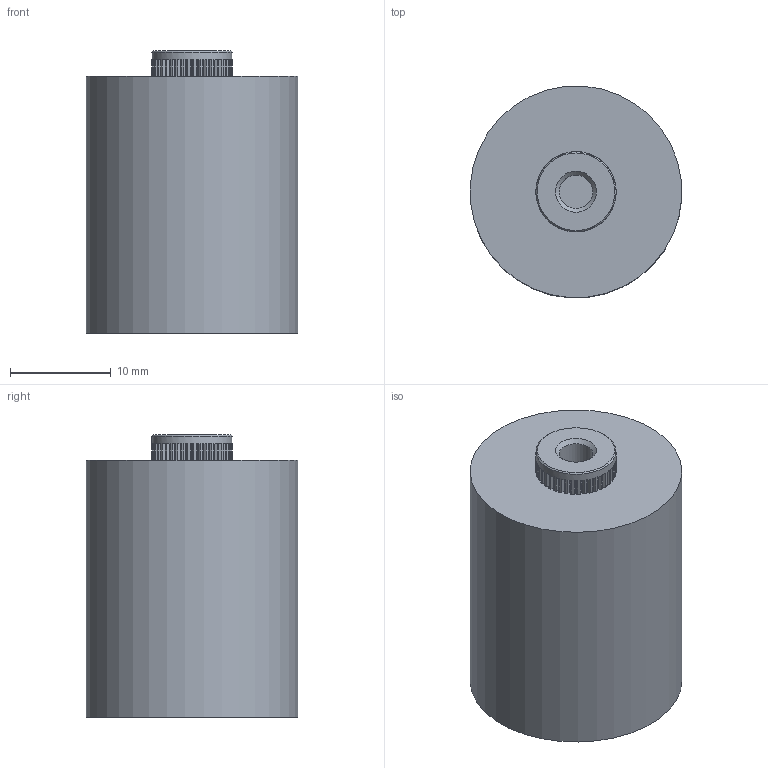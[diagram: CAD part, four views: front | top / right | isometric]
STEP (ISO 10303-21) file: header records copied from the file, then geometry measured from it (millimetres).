
FILE_DESCRIPTION((''),'2;1');
FILE_NAME('I:\Marketing\M6t1\M6T1 - Internal\Drawings\Werk 3\Finished product\Ceramite\Upload for homepage\715\Unterordner\715C30KTT19\715C30KTT19.stp','2013-06-10T14:30:23',('sherden'),(''),'Autodesk Inventor 2013','Autodesk Inventor 2013','');
FILE_SCHEMA(('AUTOMOTIVE_DESIGN { 1 2 10303 214 0 1 1 1 }'));
Length unit declared in the file: millimetre
Products named in the file (1): Bauteil4
Bounding box: 20.96 x 20.96 x 28 mm (x, y, z)
Volume: 8849.7 mm3; surface area: 2725 mm2
Topology: 1 solids, 41 shells, 573 faces, 1419 edges, 932 vertices
Faces by surface type: plane 486, cylinder 84, cone 3
Full cylindrical faces by diameter (mm): 3.302 x2, 7.95 x1, 21 x1
Entity records: 17304 total; most frequent: CARTESIAN_POINT 2916, ORIENTED_EDGE 2822, DIRECTION 2810, EDGE_CURVE 1411, VECTOR 1160, LINE 1160, VERTEX_POINT 931, AXIS2_PLACEMENT_3D 825
